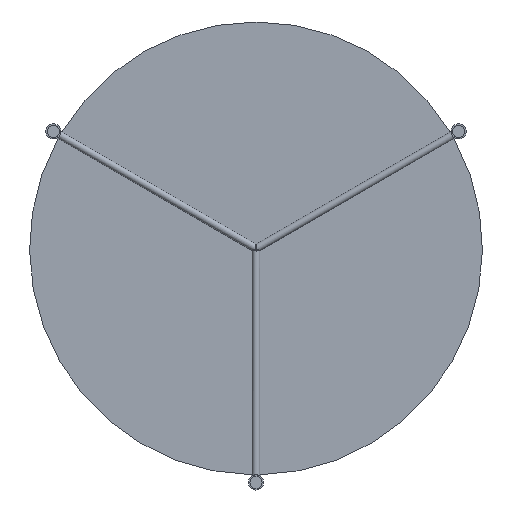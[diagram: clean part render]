
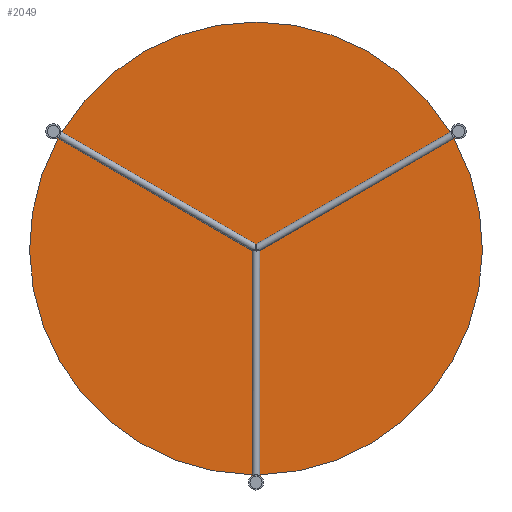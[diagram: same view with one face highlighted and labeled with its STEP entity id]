
A CAD part, front view. The second image highlights one B-rep face of the part: STEP entity #2049.
In plain terms, the highlighted planar face has unit normal (0, -1, 0).
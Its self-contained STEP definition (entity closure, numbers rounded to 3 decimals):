
#22 = EDGE_CURVE ( 'NONE', #89, #2738, #3643, .T. ) ;
#51 = ORIENTED_EDGE ( 'NONE', *, *, #209, .T. ) ;
#88 = ORIENTED_EDGE ( 'NONE', *, *, #1175, .T. ) ;
#89 = VERTEX_POINT ( 'NONE', #2951 ) ;
#183 = VERTEX_POINT ( 'NONE', #3124 ) ;
#199 = VERTEX_POINT ( 'NONE', #4116 ) ;
#209 = EDGE_CURVE ( 'NONE', #2816, #3123, #4310, .T. ) ;
#251 = DIRECTION ( 'NONE',  ( 0., 0., -1. ) ) ;
#299 = DIRECTION ( 'NONE',  ( 0., 0., -1. ) ) ;
#304 = DIRECTION ( 'NONE',  ( 0.866, 0., -0.5 ) ) ;
#329 = CARTESIAN_POINT ( 'NONE',  ( 271.528, 251., 149.839 ) ) ;
#341 = FACE_OUTER_BOUND ( 'NONE', #394, .T. ) ;
#378 = CIRCLE ( 'NONE', #1714, 300. ) ;
#394 = EDGE_LOOP ( 'NONE', ( #1460, #3497, #1096, #3883, #1608, #3852, #88, #1411, #3922, #988, #601, #51, #3280 ) ) ;
#475 = LINE ( 'NONE', #1570, #1776 ) ;
#478 = EDGE_CURVE ( 'NONE', #183, #2910, #475, .T. ) ;
#576 = CARTESIAN_POINT ( 'NONE',  ( 0., 251., 300. ) ) ;
#601 = ORIENTED_EDGE ( 'NONE', *, *, #2373, .T. ) ;
#681 = VERTEX_POINT ( 'NONE', #1933 ) ;
#718 = DIRECTION ( 'NONE',  ( 0., 0., -1. ) ) ;
#725 = CARTESIAN_POINT ( 'NONE',  ( -258.6, 251., 156.231 ) ) ;
#873 = DIRECTION ( 'NONE',  ( 0., 0., -1. ) ) ;
#892 = EDGE_CURVE ( 'NONE', #2910, #89, #1136, .T. ) ;
#904 = DIRECTION ( 'NONE',  ( -0.866, 0., -0.5 ) ) ;
#935 = VERTEX_POINT ( 'NONE', #2720 ) ;
#963 = EDGE_CURVE ( 'NONE', #3752, #681, #3983, .T. ) ;
#977 = LINE ( 'NONE', #1318, #2012 ) ;
#981 = CARTESIAN_POINT ( 'NONE',  ( -262.756, 251., 144.774 ) ) ;
#988 = ORIENTED_EDGE ( 'NONE', *, *, #2156, .T. ) ;
#1058 = AXIS2_PLACEMENT_3D ( 'NONE', #2711, #2747, #1762 ) ;
#1096 = ORIENTED_EDGE ( 'NONE', *, *, #22, .T. ) ;
#1136 = CIRCLE ( 'NONE', #4162, 10. ) ;
#1175 = EDGE_CURVE ( 'NONE', #935, #2780, #3265, .T. ) ;
#1292 = VERTEX_POINT ( 'NONE', #1339 ) ;
#1307 = AXIS2_PLACEMENT_3D ( 'NONE', #3726, #3392, #718 ) ;
#1318 = CARTESIAN_POINT ( 'NONE',  ( -6., 251., -310.07 ) ) ;
#1339 = CARTESIAN_POINT ( 'NONE',  ( -6., 251., -302.07 ) ) ;
#1411 = ORIENTED_EDGE ( 'NONE', *, *, #2123, .T. ) ;
#1460 = ORIENTED_EDGE ( 'NONE', *, *, #478, .T. ) ;
#1554 = DIRECTION ( 'NONE',  ( 0., 0., -1. ) ) ;
#1570 = CARTESIAN_POINT ( 'NONE',  ( -265.528, 251., 160.231 ) ) ;
#1608 = ORIENTED_EDGE ( 'NONE', *, *, #1668, .T. ) ;
#1663 = EDGE_CURVE ( 'NONE', #2738, #3042, #3054, .T. ) ;
#1668 = EDGE_CURVE ( 'NONE', #3042, #1292, #977, .T. ) ;
#1714 = AXIS2_PLACEMENT_3D ( 'NONE', #1894, #2854, #1554 ) ;
#1762 = DIRECTION ( 'NONE',  ( 0., 0., -1. ) ) ;
#1770 = CARTESIAN_POINT ( 'NONE',  ( 6., 251., -299.94 ) ) ;
#1776 = VECTOR ( 'NONE', #1816, 1000. ) ;
#1796 = AXIS2_PLACEMENT_3D ( 'NONE', #2181, #4137, #2161 ) ;
#1816 = DIRECTION ( 'NONE',  ( -0.866, 0., 0.5 ) ) ;
#1856 = DIRECTION ( 'NONE',  ( 0., 0., 1. ) ) ;
#1894 = CARTESIAN_POINT ( 'NONE',  ( 0., 251., 0. ) ) ;
#1933 = CARTESIAN_POINT ( 'NONE',  ( 264.6, 251., 145.839 ) ) ;
#2009 = DIRECTION ( 'NONE',  ( 0., -1., 0. ) ) ;
#2012 = VECTOR ( 'NONE', #299, 1000. ) ;
#2049 = ADVANCED_FACE ( 'NONE', ( #341 ), #3708, .T. ) ;
#2123 = EDGE_CURVE ( 'NONE', #2780, #3752, #4045, .T. ) ;
#2156 = EDGE_CURVE ( 'NONE', #681, #199, #2223, .T. ) ;
#2161 = DIRECTION ( 'NONE',  ( 0., 0., -1. ) ) ;
#2181 = CARTESIAN_POINT ( 'NONE',  ( 0., 251., 0. ) ) ;
#2223 = CIRCLE ( 'NONE', #3407, 10. ) ;
#2285 = CARTESIAN_POINT ( 'NONE',  ( 262.756, 251., 144.774 ) ) ;
#2343 = VECTOR ( 'NONE', #4313, 1000. ) ;
#2373 = EDGE_CURVE ( 'NONE', #199, #2816, #3006, .T. ) ;
#2392 = CARTESIAN_POINT ( 'NONE',  ( 256.756, 251., 155.166 ) ) ;
#2436 = VECTOR ( 'NONE', #904, 1000. ) ;
#2495 = CARTESIAN_POINT ( 'NONE',  ( 268.528, 251., 155.035 ) ) ;
#2498 = AXIS2_PLACEMENT_3D ( 'NONE', #4337, #2009, #2683 ) ;
#2622 = EDGE_CURVE ( 'NONE', #3123, #183, #378, .T. ) ;
#2683 = DIRECTION ( 'NONE',  ( 0., 0., -1. ) ) ;
#2711 = CARTESIAN_POINT ( 'NONE',  ( 0., 251., 0. ) ) ;
#2720 = CARTESIAN_POINT ( 'NONE',  ( 6., 251., -302.07 ) ) ;
#2738 = VERTEX_POINT ( 'NONE', #2920 ) ;
#2747 = DIRECTION ( 'NONE',  ( 0., -1., 0. ) ) ;
#2780 = VERTEX_POINT ( 'NONE', #1770 ) ;
#2816 = VERTEX_POINT ( 'NONE', #2392 ) ;
#2854 = DIRECTION ( 'NONE',  ( 0., -1., 0. ) ) ;
#2890 = CARTESIAN_POINT ( 'NONE',  ( 0., 251., -310.07 ) ) ;
#2910 = VERTEX_POINT ( 'NONE', #725 ) ;
#2920 = CARTESIAN_POINT ( 'NONE',  ( -262.756, 251., 144.774 ) ) ;
#2951 = CARTESIAN_POINT ( 'NONE',  ( -264.6, 251., 145.839 ) ) ;
#3006 = LINE ( 'NONE', #4354, #2436 ) ;
#3042 = VERTEX_POINT ( 'NONE', #3507 ) ;
#3054 = CIRCLE ( 'NONE', #2498, 300. ) ;
#3123 = VERTEX_POINT ( 'NONE', #576 ) ;
#3124 = CARTESIAN_POINT ( 'NONE',  ( -256.756, 251., 155.166 ) ) ;
#3205 = EDGE_CURVE ( 'NONE', #1292, #935, #4175, .T. ) ;
#3265 = LINE ( 'NONE', #3289, #4100 ) ;
#3267 = AXIS2_PLACEMENT_3D ( 'NONE', #2890, #3993, #251 ) ;
#3280 = ORIENTED_EDGE ( 'NONE', *, *, #2622, .T. ) ;
#3289 = CARTESIAN_POINT ( 'NONE',  ( 6., 251., -299.94 ) ) ;
#3392 = DIRECTION ( 'NONE',  ( 0., -1., 0. ) ) ;
#3407 = AXIS2_PLACEMENT_3D ( 'NONE', #2495, #3834, #3481 ) ;
#3481 = DIRECTION ( 'NONE',  ( 0., 0., -1. ) ) ;
#3497 = ORIENTED_EDGE ( 'NONE', *, *, #892, .T. ) ;
#3507 = CARTESIAN_POINT ( 'NONE',  ( -6., 251., -299.94 ) ) ;
#3636 = DIRECTION ( 'NONE',  ( 0., 1., 0. ) ) ;
#3643 = LINE ( 'NONE', #981, #3964 ) ;
#3708 = PLANE ( 'NONE',  #1307 ) ;
#3726 = CARTESIAN_POINT ( 'NONE',  ( 0., 251., 0. ) ) ;
#3752 = VERTEX_POINT ( 'NONE', #2285 ) ;
#3834 = DIRECTION ( 'NONE',  ( 0., 1., 0. ) ) ;
#3852 = ORIENTED_EDGE ( 'NONE', *, *, #3205, .T. ) ;
#3883 = ORIENTED_EDGE ( 'NONE', *, *, #1663, .T. ) ;
#3922 = ORIENTED_EDGE ( 'NONE', *, *, #963, .T. ) ;
#3962 = CARTESIAN_POINT ( 'NONE',  ( -268.528, 251., 155.035 ) ) ;
#3964 = VECTOR ( 'NONE', #304, 1000. ) ;
#3983 = LINE ( 'NONE', #329, #2343 ) ;
#3993 = DIRECTION ( 'NONE',  ( 0., 1., 0. ) ) ;
#4045 = CIRCLE ( 'NONE', #1796, 300. ) ;
#4100 = VECTOR ( 'NONE', #1856, 1000. ) ;
#4116 = CARTESIAN_POINT ( 'NONE',  ( 258.6, 251., 156.231 ) ) ;
#4137 = DIRECTION ( 'NONE',  ( 0., -1., 0. ) ) ;
#4162 = AXIS2_PLACEMENT_3D ( 'NONE', #3962, #3636, #873 ) ;
#4175 = CIRCLE ( 'NONE', #3267, 10. ) ;
#4310 = CIRCLE ( 'NONE', #1058, 300. ) ;
#4313 = DIRECTION ( 'NONE',  ( 0.866, 0., 0.5 ) ) ;
#4337 = CARTESIAN_POINT ( 'NONE',  ( 0., 251., 0. ) ) ;
#4354 = CARTESIAN_POINT ( 'NONE',  ( 256.756, 251., 155.166 ) ) ;
